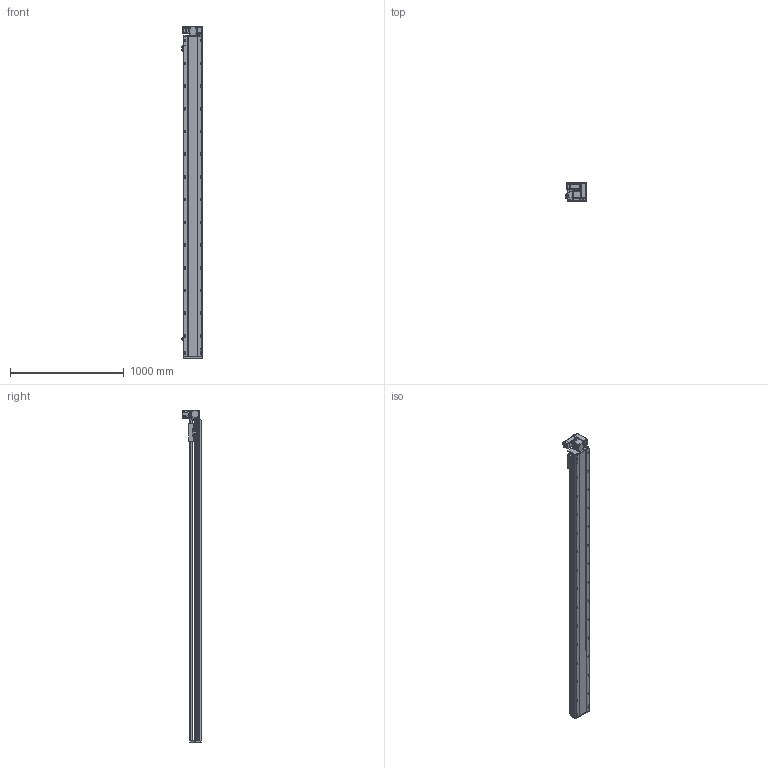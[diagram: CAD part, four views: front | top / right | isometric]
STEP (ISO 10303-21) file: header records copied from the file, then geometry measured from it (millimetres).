
FILE_DESCRIPTION (( 'STEP AP214' ), '1' );
FILE_NAME ('RTB17S-XX-2550-RW-M40-C4.STEP', '2025-12-11T09:14:04', ( '' ), ( '' ), 'SwSTEP 2.0', 'SolidWorks 2018', '' );
FILE_SCHEMA (( 'AUTOMOTIVE_DESIGN' ));
Length unit declared in the file: millimetre
Products named in the file (14): RTB17S-XX-2550-RW-M40-C4; RMP17S-L-014-T20--々湍釱^RTB17S-RW-々湍釱蚾饜-400W_RTB17S-XX-XX-RW-M40-C4; 400W侜督萇儂^RTB17S-XX-XX-RW-M40-C4; RTH13-BL-012覜茼え俋离^RTB17S-XX-XX-RW-M40-C4; RTB14-L-017P^RTB17S-RW-々湍釱蚾饜-400W_RTB17S-XX-XX-RW-M40-C4; RTB17S-L-001耜醱啣^RTB17S-XX-XX-RW-M40-C4; RTB14-L-008-M20--萇儂啣^RTB17S-RW-々湍釱蚾饜-400W_RTB17S-XX-XX-RW-M40-C4; RTB17S-L-004佪裝蹟譫蟀諉釱^RTB17S-XX-XX-RW-M40-C4; OMRON EE-SX672 传感器^RTB17S-XX-XX-RW-M40-C4; RTB14-L-005P--轴承塑胶压盖^RTB17S-RW-皮带座装配-400W_RTB17S-XX-XX-RW-M40-C4; RTB17S-L-007奻裔^RTB17S-XX-XX-RW-M40-C4; RTB17S-RW-々湍釱蚾饜-400W^RTB17S-XX-XX-RW-M40-C4; RTB14-L-018P^RTB17S-RW-々湍釱蚾饜-400W_RTB17S-XX-XX-RW-M40-C4; RTB17-R-011菁釱^RTB17S-XX-XX-RW-M40-C4
Assembly tree (16 placements, depth 3):
  RTB17S-XX-2550-RW-M40-C4
    RTB17-R-011菁釱^RTB17S-XX-XX-RW-M40-C4
    RTB17S-L-007奻裔^RTB17S-XX-XX-RW-M40-C4
    OMRON EE-SX672 传感器^RTB17S-XX-XX-RW-M40-C4  x3
    RTB17S-L-001耜醱啣^RTB17S-XX-XX-RW-M40-C4
    400W侜督萇儂^RTB17S-XX-XX-RW-M40-C4
    RTB17S-L-004佪裝蹟譫蟀諉釱^RTB17S-XX-XX-RW-M40-C4
    RTH13-BL-012覜茼え俋离^RTB17S-XX-XX-RW-M40-C4
    RTB17S-RW-々湍釱蚾饜-400W^RTB17S-XX-XX-RW-M40-C4
      RMP17S-L-014-T20--々湍釱^RTB17S-RW-々湍釱蚾饜-400W_RTB17S-XX-XX-RW-M40-C4
      RTB14-L-005P--轴承塑胶压盖^RTB17S-RW-皮带座装配-400W_RTB17S-XX-XX-RW-M40-C4
      RTB14-L-008-M20--萇儂啣^RTB17S-RW-々湍釱蚾饜-400W_RTB17S-XX-XX-RW-M40-C4
      RTB14-L-017P^RTB17S-RW-々湍釱蚾饜-400W_RTB17S-XX-XX-RW-M40-C4  x2
      RTB14-L-018P^RTB17S-RW-々湍釱蚾饜-400W_RTB17S-XX-XX-RW-M40-C4
Bounding box: 183.5 x 160.5 x 2922.5 mm (x, y, z)
Volume: 25014468 mm3; surface area: 2876466.5 mm2
Topology: 15 solids, 15 shells, 2333 faces, 6519 edges, 4257 vertices
Faces by surface type: plane 1084, cylinder 801, bspline 301, cone 139, torus 8
Entity records: 68777 total; most frequent: CARTESIAN_POINT 19524, ORIENTED_EDGE 9882, DIRECTION 9116, EDGE_CURVE 4941, VERTEX_POINT 3245, AXIS2_PLACEMENT_3D 3175, VECTOR 2766, LINE 2766
